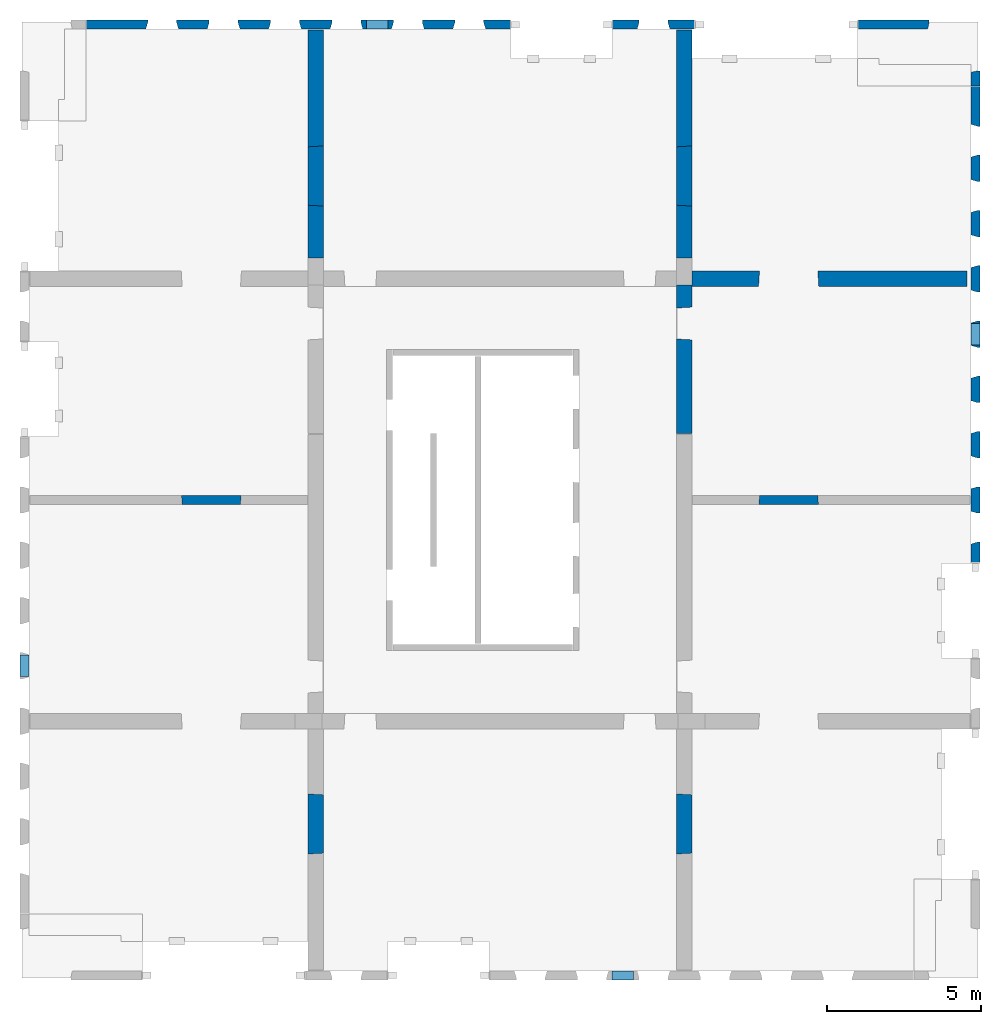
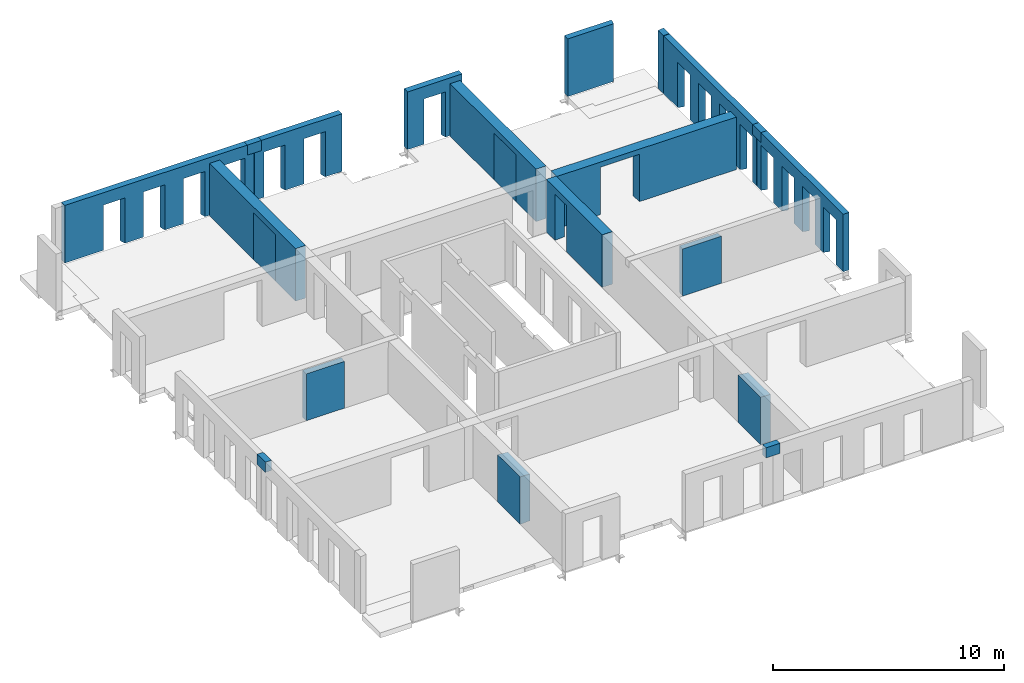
# One storey, part 4 of 4: 21 walls, 25 openings.
"""IFC2X3 building model written with IfcOpenShell, lengths in millimetres."""

from ifc_helpers import new_model, entity, si_unit, converted_unit, derived_unit, direction, frame, frame_2d, origin, origin_2d_with_axis, place, context, subcontext, project, spatial, rectangle, extrude, faceted_brep, material, layer, layer_set, layer_usage, type_object, element, save


model = new_model("IFC2X3")

# Units and contexts
model_context = context("Model", 3, precision=0.01, world=origin(), true_north=direction((6.12303176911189e-17, 1.0)))
body_context = subcontext(model_context, "Body", "Model", "MODEL_VIEW")
ifc_project = project(units=[si_unit("LENGTHUNIT", "METRE", prefix="MILLI"), si_unit("AREAUNIT", "SQUARE_METRE"), si_unit("VOLUMEUNIT", "CUBIC_METRE"), converted_unit("PLANEANGLEUNIT", "DEGREE", entity("IfcRatioMeasure", 0.0174532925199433), si_unit("PLANEANGLEUNIT", "RADIAN"), dimensions=[0, 0, 0, 0, 0, 0, 0]), si_unit("MASSUNIT", "GRAM", prefix="KILO"), derived_unit("MASSDENSITYUNIT", [(si_unit("MASSUNIT", "GRAM", prefix="KILO"), 1), (si_unit("LENGTHUNIT", "METRE"), -3)]), si_unit("TIMEUNIT", "SECOND"), si_unit("FREQUENCYUNIT", "HERTZ"), si_unit("THERMODYNAMICTEMPERATUREUNIT", "DEGREE_CELSIUS"), derived_unit("THERMALTRANSMITTANCEUNIT", [(si_unit("MASSUNIT", "GRAM", prefix="KILO"), 1), (si_unit("THERMODYNAMICTEMPERATUREUNIT", "KELVIN"), -1), (si_unit("TIMEUNIT", "SECOND"), -3)]), derived_unit("VOLUMETRICFLOWRATEUNIT", [(si_unit("LENGTHUNIT", "METRE"), 3), (si_unit("TIMEUNIT", "SECOND"), -1)]), si_unit("ELECTRICCURRENTUNIT", "AMPERE"), si_unit("ELECTRICVOLTAGEUNIT", "VOLT"), si_unit("POWERUNIT", "WATT"), si_unit("FORCEUNIT", "NEWTON", prefix="KILO"), si_unit("ILLUMINANCEUNIT", "LUX"), si_unit("LUMINOUSFLUXUNIT", "LUMEN"), si_unit("LUMINOUSINTENSITYUNIT", "CANDELA"), derived_unit("USERDEFINED", [(si_unit("MASSUNIT", "GRAM", prefix="KILO"), -1), (si_unit("LENGTHUNIT", "METRE"), -2), (si_unit("TIMEUNIT", "SECOND"), 3), (si_unit("LUMINOUSFLUXUNIT", "LUMEN"), 1)]), derived_unit("LINEARVELOCITYUNIT", [(si_unit("LENGTHUNIT", "METRE"), 1), (si_unit("TIMEUNIT", "SECOND"), -1)]), si_unit("PRESSUREUNIT", "PASCAL"), derived_unit("USERDEFINED", [(si_unit("LENGTHUNIT", "METRE"), -2), (si_unit("MASSUNIT", "GRAM", prefix="KILO"), 1), (si_unit("TIMEUNIT", "SECOND"), -2)])], contexts=[model_context])

# Site, building, storey
site_placement = place(None, origin())
site = spatial("IfcSite", under=ifc_project, at=site_placement, Name="Default", CompositionType="ELEMENT")
building_placement = place(site_placement, origin())
building = spatial("IfcBuilding", under=site, at=building_placement, Name="niet gebruiken", CompositionType="ELEMENT")
storey_placement = place(building_placement, frame((0.0, 0.0, 33300.0)))
storey = spatial("IfcBuildingStorey", under=building, at=storey_placement, Name="10 tiende verdieping", CompositionType="ELEMENT", Elevation=33300.0)

# Walls
ifc_material_1 = material(Name="NLRS_f2_beton ihwg")
ifc_layer_1 = layer(ifc_material_1, 300.0)
ifc_layer_set_1 = layer_set([ifc_layer_1], Name="Basic Wall:NLRS_21.21_WA_beton ihwg d=300_gen")
ifc_layer_usage_1 = layer_usage(ifc_layer_set_1, "AXIS2", "NEGATIVE", 150.0)
wall_type_1 = type_object("IfcWallType", Name="Basic Wall:NLRS_21.21_WA_beton ihwg d=300_gen", PredefinedType="STANDARD", material=ifc_layer_set_1)
wall_1_placement = place(storey_placement, frame((137395.0, 32980.0, 2455.0)))
element("IfcWallStandardCase", 1, at=wall_1_placement, inside=storey, type_object=wall_type_1, material=ifc_layer_usage_1, Name="Basic Wall:NLRS_21.21_WA_beton ihwg d=300_gen", ObjectType="Basic Wall:NLRS_21.21_WA_beton ihwg d=300_gen", context=body_context, shape_type="SweptSolid", body=[
    extrude(rectangle(XDim=710.000000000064, YDim=300.000000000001, at=frame_2d((355.000000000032, 0.0), x_axis=(-1.0, 0.0))), origin(), (0.0, 0.0, 1.0), 535.0),
])
ifc_layer_usage_2 = layer_usage(ifc_layer_set_1, "AXIS2", "NEGATIVE", 150.0)
wall_2_placement = place(storey_placement, frame((146105.0, 2020.0, 2455.0), z_axis=(0.0, 0.0, 1.0), x_axis=(-1.0, 0.0, 0.0)))
element("IfcWallStandardCase", 2, at=wall_2_placement, inside=storey, type_object=wall_type_1, material=ifc_layer_usage_2, Name="Basic Wall:NLRS_21.21_WA_beton ihwg d=300_gen", ObjectType="Basic Wall:NLRS_21.21_WA_beton ihwg d=300_gen", context=body_context, shape_type="SweptSolid", body=[
    extrude(rectangle(XDim=710.000000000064, YDim=300.0, at=frame_2d((355.000000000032, -1.4210854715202e-14), x_axis=(-1.0, 0.0))), origin(), (0.0, 0.0, 1.0), 535.0),
])
ifc_layer_usage_3 = layer_usage(ifc_layer_set_1, "AXIS2", "NEGATIVE", 150.0)
wall_3_placement = place(storey_placement, frame((126270.0, 11745.0, 2455.0), z_axis=(0.0, 0.0, 1.0), x_axis=(0.0, 1.0, 0.0)))
element("IfcWallStandardCase", 3, at=wall_3_placement, inside=storey, type_object=wall_type_1, material=ifc_layer_usage_3, Name="Basic Wall:NLRS_21.21_WA_beton ihwg d=300_gen", ObjectType="Basic Wall:NLRS_21.21_WA_beton ihwg d=300_gen", context=body_context, shape_type="SweptSolid", body=[
    extrude(rectangle(XDim=709.999999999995, YDim=300.000000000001, at=frame_2d((354.999999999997, 0.0), x_axis=(-1.0, 0.0))), origin(), (0.0, 0.0, 1.0), 535.0),
])
ifc_layer_usage_4 = layer_usage(ifc_layer_set_1, "AXIS2", "NEGATIVE", 150.0)
wall_4_placement = place(storey_placement, frame((157230.0, 23255.0, 2455.0), z_axis=(0.0, 0.0, 1.0), x_axis=(0.0, -1.0, 0.0)))
element("IfcWallStandardCase", 4, at=wall_4_placement, inside=storey, type_object=wall_type_1, material=ifc_layer_usage_4, Name="Basic Wall:NLRS_21.21_WA_beton ihwg d=300_gen", ObjectType="Basic Wall:NLRS_21.21_WA_beton ihwg d=300_gen", context=body_context, shape_type="SweptSolid", body=[
    extrude(rectangle(XDim=709.999999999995, YDim=300.000000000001, at=frame_2d((354.999999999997, 9.9475983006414e-13), x_axis=(-1.0, 0.0))), origin(), (0.0, 0.0, 1.0), 535.0),
])

# Wall, opening
ifc_material_2 = material(Name="NLRS_f2_beton prefab")
ifc_layer_2 = layer(ifc_material_2, 500.0)
ifc_layer_set_2 = layer_set([ifc_layer_2], Name="Basic Wall:NLRS_22.21_WA_beton prefab d=500_gen")
ifc_layer_usage_5 = layer_usage(ifc_layer_set_2, "AXIS2", "NEGATIVE", 250.0)
wall_type_2 = type_object("IfcWallType", Name="Basic Wall:NLRS_22.21_WA_beton prefab d=500_gen", PredefinedType="STANDARD", material=ifc_layer_set_2)
wall_5_placement = place(storey_placement, frame((147750.0, 25380.0, -70.0), z_axis=(0.0, 0.0, 1.0), x_axis=(0.0, 1.0, 0.0)))
wall_5 = element("IfcWallStandardCase", 5, at=wall_5_placement, inside=storey, type_object=wall_type_2, material=ifc_layer_usage_5, Name="Basic Wall:NLRS_22.21_WA_beton prefab d=500_gen", ObjectType="Basic Wall:NLRS_22.21_WA_beton prefab d=500_gen", context=body_context, shape_type="SweptSolid", body=[
    extrude(rectangle(XDim=7430.00000000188, YDim=499.99999999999, at=frame_2d((3715.00000000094, 7.14805992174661e-12), x_axis=(-1.0, 0.0))), origin(), (0.0, 0.0, 1.0), 2770.0),
])
opening_1_placement = place(wall_5_placement, frame((1690.0, 250.0, 0.0)))
element("IfcOpeningElement", 6, at=opening_1_placement, cuts=wall_5, Name="Basic Wall:NLRS_22.21_WA_beton prefab d=500_gen", ObjectType="Opening", context=body_context, shape_type="Brep", body=[
    faceted_brep([(1930.0, 0.0, 2470.0), (1930.0, 0.0, 0.0), (30.0, 0.0, 0.0), (30.0, 0.0, 2470.0), (1960.0, -500.0, 2500.0), (0.0, -500.0, 2500.0), (0.0, -500.0, 0.0), (1960.0, -500.0, 0.0)], [[[0, 1, 2, 3]], [[4, 5, 6, 7]], [[4, 0, 3, 5]], [[5, 3, 2, 6]], [[6, 2, 1, 7]], [[7, 1, 0, 4]]]),
])

ifc_layer_usage_6 = layer_usage(ifc_layer_set_2, "AXIS2", "NEGATIVE", 250.0)
wall_6_placement = place(storey_placement, frame((135750.0, 25380.0, -70.0), z_axis=(0.0, 0.0, 1.0), x_axis=(0.0, 1.0, 0.0)))
wall_6 = element("IfcWallStandardCase", 7, at=wall_6_placement, inside=storey, type_object=wall_type_2, material=ifc_layer_usage_6, Name="Basic Wall:NLRS_22.21_WA_beton prefab d=500_gen", ObjectType="Basic Wall:NLRS_22.21_WA_beton prefab d=500_gen", context=body_context, shape_type="SweptSolid", body=[
    extrude(rectangle(XDim=7429.99999999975, YDim=499.99999999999, at=frame_2d((3714.99999999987, -5.62749846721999e-12), x_axis=(-1.0, 0.0))), origin(), (0.0, 0.0, 1.0), 2770.0),
])
opening_2_placement = place(wall_6_placement, frame((1690.0, 250.0, 0.0)))
element("IfcOpeningElement", 8, at=opening_2_placement, cuts=wall_6, Name="Basic Wall:NLRS_22.21_WA_beton prefab d=500_gen", ObjectType="Opening", context=body_context, shape_type="Brep", body=[
    faceted_brep([(1930.0, 0.0, 2470.0), (1930.0, 0.0, 0.0), (30.0, 0.0, 0.0), (30.0, 0.0, 2470.0), (1960.0, -500.0, 2500.0), (0.0, -500.0, 2500.0), (0.0, -500.0, 0.0), (1960.0, -500.0, 0.0)], [[[0, 1, 2, 3]], [[4, 5, 6, 7]], [[4, 0, 3, 5]], [[5, 3, 2, 6]], [[6, 2, 1, 7]], [[7, 1, 0, 4]]]),
])

ifc_layer_usage_7 = layer_usage(ifc_layer_set_2, "AXIS2", "NEGATIVE", 250.0)
wall_7_placement = place(storey_placement, frame((147750.0, 24500.0, -70.0), z_axis=(0.0, 0.0, 1.0), x_axis=(0.0, -1.0, 0.0)))
wall_7 = element("IfcWallStandardCase", 9, at=wall_7_placement, inside=storey, type_object=wall_type_2, material=ifc_layer_usage_7, Name="Basic Wall:NLRS_22.21_WA_beton prefab d=500_gen", ObjectType="Basic Wall:NLRS_22.21_WA_beton prefab d=500_gen", context=body_context, shape_type="SweptSolid", body=[
    extrude(rectangle(XDim=4840.00000000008, YDim=499.99999999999, at=frame_2d((2420.00000000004, 0.0), x_axis=(-1.0, 0.0))), origin(), (0.0, 0.0, 1.0), 2770.0),
])
opening_3_placement = place(wall_7_placement, frame((1786.0, -250.0, 0.0)))
element("IfcOpeningElement", 10, at=opening_3_placement, cuts=wall_7, Name="Basic Wall:NLRS_22.21_WA_beton prefab d=500_gen", ObjectType="Opening", context=body_context, shape_type="Brep", body=[
    faceted_brep([(-1066.0, 500.0, 2478.0), (-1066.0, 500.0, 0.0), (-1036.0, 0.0, 0.0), (-1036.0, 0.0, 2448.0), (0.0, 500.0, 0.0), (-30.0, 0.0, 0.0), (-30.0, 0.0, 2448.0), (0.0, 500.0, 2478.0)], [[[0, 1, 2, 3]], [[1, 4, 5, 2]], [[6, 3, 2, 5]], [[7, 4, 1, 0]], [[7, 0, 3, 6]], [[4, 7, 6, 5]]]),
])

ifc_layer_usage_8 = layer_usage(ifc_layer_set_2, "AXIS2", "NEGATIVE", 250.0)
wall_8_placement = place(storey_placement, frame((156960.0, 24700.0, -70.0), z_axis=(0.0, 0.0, 1.0), x_axis=(-1.0, 0.0, 0.0)))
wall_8 = element("IfcWallStandardCase", 11, at=wall_8_placement, inside=storey, type_object=wall_type_2, material=ifc_layer_usage_8, Name="Basic Wall:NLRS_22.21_WA_beton prefab d=500_gen", ObjectType="Basic Wall:NLRS_22.21_WA_beton prefab d=500_gen", context=body_context, shape_type="SweptSolid", body=[
    extrude(rectangle(XDim=8960.00000000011, YDim=499.999999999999, at=frame_2d((4480.00000000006, 5.6843418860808e-13), x_axis=(-1.0, 0.0))), origin(), (0.0, 0.0, 1.0), 2770.0),
])
opening_4_placement = place(wall_8_placement, frame((6790.0, 250.0, 0.0)))
element("IfcOpeningElement", 12, at=opening_4_placement, cuts=wall_8, Name="Basic Wall:NLRS_22.21_WA_beton prefab d=500_gen", ObjectType="Opening", context=body_context, shape_type="Brep", body=[
    faceted_brep([(-30.0, -500.0, 2470.0), (-1930.0, -500.0, 2470.0), (-1930.0, -500.0, 0.0), (-30.0, -500.0, 0.0), (0.0, 0.0, 2500.0), (0.0, 0.0, 0.0), (-1960.0, 0.0, 0.0), (-1960.0, 0.0, 2500.0)], [[[0, 1, 2, 3]], [[4, 5, 6, 7]], [[4, 7, 1, 0]], [[7, 6, 2, 1]], [[6, 5, 3, 2]], [[5, 4, 0, 3]]]),
])

ifc_layer_3 = layer(ifc_material_2, 300.0)
ifc_layer_set_3 = layer_set([ifc_layer_3], Name="Basic Wall:NLRS_21.21_WA_beton prefab d=300/320_gen")
ifc_layer_usage_9 = layer_usage(ifc_layer_set_3, "AXIS2", "NEGATIVE", 150.0)
wall_type_3 = type_object("IfcWallType", Name="Basic Wall:NLRS_21.21_WA_beton prefab d=300/320_gen", PredefinedType="STANDARD", material=ifc_layer_set_3)
wall_9_placement = place(storey_placement, frame((145390.0, 32980.0, -50.0)))
wall_9 = element("IfcWallStandardCase", 13, at=wall_9_placement, inside=storey, type_object=wall_type_3, material=ifc_layer_usage_9, Name="Basic Wall:NLRS_21.21_WA_beton prefab d=300/320_gen", ObjectType="Basic Wall:NLRS_21.21_WA_beton prefab d=300/320_gen", context=body_context, shape_type="SweptSolid", body=[
    extrude(rectangle(XDim=2720.00000000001, YDim=300.000000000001, at=frame_2d((1360.0, -4.54747350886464e-13), x_axis=(-1.0, 0.0))), origin(), (0.0, 0.0, 1.0), 3040.0),
])
opening_5_placement = place(wall_9_placement, frame((825.0, -150.0, -20.0)))
element("IfcOpeningElement", 14, at=opening_5_placement, cuts=wall_9, Name="Basic Wall:NLRS_21.21_WA_beton prefab d=300/320_gen", ObjectType="Opening", context=body_context, shape_type="Brep", body=[
    faceted_brep([(0.0, 0.0, 2405.0), (0.0, 0.0, 0.0), (1070.0, 0.0, 0.0), (1070.0, 0.0, 2405.0), (1005.0, 219.0, 2370.0), (65.0, 219.0, 2370.0), (1005.0, 219.0, 0.0), (65.0, 219.0, 0.0), (65.0, 300.0, 0.0), (1005.0, 300.0, 0.0), (65.0, 300.0, 2370.0), (1005.0, 300.0, 2370.0)], [[[0, 1, 2, 3]], [[3, 4, 5, 0]], [[2, 6, 4, 3]], [[1, 7, 8, 9, 6, 2]], [[0, 5, 7, 1]], [[10, 11, 9, 8]], [[10, 5, 4, 11]], [[11, 4, 6, 9]], [[8, 7, 5, 10]]]),
])

# Wall, openings
ifc_layer_usage_10 = layer_usage(ifc_layer_set_3, "AXIS2", "NEGATIVE", 150.0)
wall_10_placement = place(storey_placement, frame((128290.0, 32980.0, -50.0)))
wall_10 = element("IfcWallStandardCase", 15, at=wall_10_placement, inside=storey, type_object=wall_type_3, material=ifc_layer_usage_10, Name="Basic Wall:NLRS_21.21_WA_beton prefab d=300/320_gen", ObjectType="Basic Wall:NLRS_21.21_WA_beton prefab d=300/320_gen", context=body_context, shape_type="SweptSolid", body=[
    extrude(rectangle(XDim=9449.99999999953, YDim=300.000000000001, at=frame_2d((4724.99999999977, 0.0), x_axis=(-1.0, 0.0))), origin(), (0.0, 0.0, 1.0), 3040.00000000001),
])
opening_6_placement = place(wall_10_placement, frame((3925.0, -150.0, -20.0)))
element("IfcOpeningElement", 16, at=opening_6_placement, cuts=wall_10, Name="Basic Wall:NLRS_21.21_WA_beton prefab d=300/320_gen", ObjectType="Opening", context=body_context, shape_type="Brep", body=[
    faceted_brep([(1070.0, 0.0, 2405.0), (0.0, 0.0, 2405.0), (0.0, 0.0, 0.0), (1070.0, 0.0, 0.0), (1005.0, 219.0, 2370.0), (65.0, 219.0, 2370.0), (65.0, 219.0, 0.0), (65.0, 300.0, 0.0), (1005.0, 300.0, 0.0), (1005.0, 219.0, 0.0), (1005.0, 300.0, 2370.0), (65.0, 300.0, 2370.0)], [[[0, 1, 2, 3]], [[1, 0, 4, 5]], [[2, 1, 5, 6]], [[3, 2, 6, 7, 8, 9]], [[0, 3, 9, 4]], [[10, 8, 7, 11]], [[10, 11, 5, 4]], [[11, 7, 6, 5]], [[8, 10, 4, 9]]]),
])
opening_7_placement = place(wall_10_placement, frame((1925.0, -150.0, -20.0)))
element("IfcOpeningElement", 17, at=opening_7_placement, cuts=wall_10, Name="Basic Wall:NLRS_21.21_WA_beton prefab d=300/320_gen", ObjectType="Opening", context=body_context, shape_type="Brep", body=[
    faceted_brep([(1070.0, 0.0, 2405.0), (0.0, 0.0, 2405.0), (0.0, 0.0, 0.0), (1070.0, 0.0, 0.0), (1005.0, 219.0, 2370.0), (65.0, 219.0, 2370.0), (65.0, 219.0, 0.0), (65.0, 300.0, 0.0), (1005.0, 300.0, 0.0), (1005.0, 219.0, 0.0), (1005.0, 300.0, 2370.0), (65.0, 300.0, 2370.0)], [[[0, 1, 2, 3]], [[1, 0, 4, 5]], [[2, 1, 5, 6]], [[3, 2, 6, 7, 8, 9]], [[0, 3, 9, 4]], [[10, 8, 7, 11]], [[10, 11, 5, 4]], [[11, 7, 6, 5]], [[8, 10, 4, 9]]]),
])
opening_8_placement = place(wall_10_placement, frame((5925.0, -150.0, -20.0)))
element("IfcOpeningElement", 18, at=opening_8_placement, cuts=wall_10, Name="Basic Wall:NLRS_21.21_WA_beton prefab d=300/320_gen", ObjectType="Opening", context=body_context, shape_type="Brep", body=[
    faceted_brep([(0.0, 0.0, 2405.0), (0.0, 0.0, 0.0), (1070.0, 0.0, 0.0), (1070.0, 0.0, 2405.0), (1005.0, 219.0, 2370.0), (65.0, 219.0, 2370.0), (1005.0, 219.0, 0.0), (65.0, 219.0, 0.0), (65.0, 300.0, 0.0), (1005.0, 300.0, 0.0), (65.0, 300.0, 2370.0), (1005.0, 300.0, 2370.0)], [[[0, 1, 2, 3]], [[3, 4, 5, 0]], [[2, 6, 4, 3]], [[1, 7, 8, 9, 6, 2]], [[0, 5, 7, 1]], [[10, 11, 9, 8]], [[10, 5, 4, 11]], [[11, 4, 6, 9]], [[8, 7, 5, 10]]]),
])
opening_9_placement = place(wall_10_placement, frame((7925.0, -150.0, -20.0)))
element("IfcOpeningElement", 19, at=opening_9_placement, cuts=wall_10, Name="Basic Wall:NLRS_21.21_WA_beton prefab d=300/320_gen", ObjectType="Opening", context=body_context, shape_type="Brep", body=[
    faceted_brep([(0.0, 0.0, 2405.0), (0.0, 0.0, 0.0), (1070.0, 0.0, 0.0), (1070.0, 0.0, 2405.0), (1005.0, 219.0, 2370.0), (65.0, 219.0, 2370.0), (1005.0, 219.0, 0.0), (65.0, 219.0, 0.0), (65.0, 300.0, 0.0), (1005.0, 300.0, 0.0), (65.0, 300.0, 2370.0), (1005.0, 300.0, 2370.0)], [[[0, 1, 2, 3]], [[3, 4, 5, 0]], [[2, 6, 4, 3]], [[1, 7, 8, 9, 6, 2]], [[0, 5, 7, 1]], [[10, 11, 9, 8]], [[10, 5, 4, 11]], [[11, 4, 6, 9]], [[8, 7, 5, 10]]]),
])
opening_10_placement = place(wall_10_placement, origin())
element("IfcOpeningElement", 20, at=opening_10_placement, cuts=wall_10, Name="Basic Wall:NLRS_21.21_WA_beton prefab d=300/320_gen", ObjectType="Opening", context=body_context, shape_type="SweptSolid", body=[
    extrude(rectangle(XDim=535.0, YDim=345.000000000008, at=origin_2d_with_axis()), frame((9277.49999999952, 150.0, 2772.50000000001), z_axis=(0.0, -1.0, 0.0), x_axis=(0.0, 0.0, 1.0)), (0.0, 0.0, 1.0), 300.0),
])

# Wall, opening
ifc_layer_usage_11 = layer_usage(ifc_layer_set_3, "AXIS2", "NEGATIVE", 150.0)
wall_11_placement = place(storey_placement, frame((153390.0, 32980.0, -50.0)))
wall_11 = element("IfcWallStandardCase", 21, at=wall_11_placement, inside=storey, type_object=wall_type_3, material=ifc_layer_usage_11, Name="Basic Wall:NLRS_21.21_WA_beton prefab d=300/320_gen", ObjectType="Basic Wall:NLRS_21.21_WA_beton prefab d=300/320_gen", context=body_context, shape_type="SweptSolid", body=[
    extrude(rectangle(XDim=2330.00000000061, YDim=300.000000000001, at=frame_2d((1165.00000000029, -1.29318777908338e-12), x_axis=(-1.0, 0.0))), origin(), (0.0, 0.0, 1.0), 3040.0),
])
opening_11_placement = place(wall_11_placement, frame((2265.0, -250.0, 0.0)))
element("IfcOpeningElement", 22, at=opening_11_placement, cuts=wall_11, Name="Basic Wall:NLRS_21.21_WA_beton prefab d=300/320_gen", ObjectType="Opening", context=body_context, shape_type="Brep", body=[
    faceted_brep([(65.0, 0.0, 3040.0), (65.0, 319.0, 3040.0), (0.0, 0.0, 3040.0), (65.0, 0.0, 0.0), (0.0, 0.0, 0.0), (65.0, 319.0, 0.0)], [[[0, 1, 2]], [[3, 4, 5]], [[2, 4, 3, 0]], [[0, 3, 5, 1]], [[1, 5, 4, 2]]]),
])

ifc_layer_usage_12 = layer_usage(ifc_layer_set_3, "AXIS2", "NEGATIVE", 150.0)
wall_12_placement = place(storey_placement, frame((157230.0, 31470.0, -50.0), z_axis=(0.0, 0.0, 1.0), x_axis=(0.0, -1.0, 0.0)))
wall_12 = element("IfcWallStandardCase", 23, at=wall_12_placement, inside=storey, type_object=wall_type_3, material=ifc_layer_usage_12, Name="Basic Wall:NLRS_21.21_WA_beton prefab d=300/320_gen", ObjectType="Basic Wall:NLRS_21.21_WA_beton prefab d=300/320_gen", context=body_context, shape_type="SweptSolid", body=[
    extrude(rectangle(XDim=489.999999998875, YDim=300.000000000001, at=frame_2d((244.999999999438, -7.8159700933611e-13), x_axis=(-1.0, 0.0))), origin(), (0.0, 0.0, 1.0), 3040.0),
])
opening_12_placement = place(wall_12_placement, frame((65.0, -250.0, 0.0)))
element("IfcOpeningElement", 24, at=opening_12_placement, cuts=wall_12, Name="Basic Wall:NLRS_21.21_WA_beton prefab d=300/320_gen", ObjectType="Opening", context=body_context, shape_type="Brep", body=[
    faceted_brep([(-65.0, 0.0, 3040.0), (0.0, 0.0, 3040.0), (-65.0, 319.0, 3040.0), (-65.0, 0.0, 0.0), (-65.0, 319.0, 0.0), (0.0, 0.0, 0.0)], [[[0, 1, 2]], [[3, 4, 5]], [[1, 0, 3, 5]], [[0, 2, 4, 3]], [[2, 1, 5, 4]]]),
])

# Wall, openings
ifc_layer_usage_13 = layer_usage(ifc_layer_set_3, "AXIS2", "NEGATIVE", 150.0)
wall_13_placement = place(storey_placement, frame((137760.0, 32980.0, -50.0)))
wall_13 = element("IfcWallStandardCase", 25, at=wall_13_placement, inside=storey, type_object=wall_type_3, material=ifc_layer_usage_13, Name="Basic Wall:NLRS_21.21_WA_beton prefab d=300/320_gen", ObjectType="Basic Wall:NLRS_21.21_WA_beton prefab d=300/320_gen", context=body_context, shape_type="SweptSolid", body=[
    extrude(rectangle(XDim=4350.00000000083, YDim=300.000000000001, at=frame_2d((2175.00000000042, 0.0), x_axis=(-1.0, 0.0))), origin(), (0.0, 0.0, 1.0), 3040.0),
])
opening_13_placement = place(wall_13_placement, frame((455.0, -150.0, -20.0)))
element("IfcOpeningElement", 26, at=opening_13_placement, cuts=wall_13, Name="Basic Wall:NLRS_21.21_WA_beton prefab d=300/320_gen", ObjectType="Opening", context=body_context, shape_type="Brep", body=[
    faceted_brep([(1070.0, 0.0, 2405.0), (0.0, 0.0, 2405.0), (0.0, 0.0, 0.0), (1070.0, 0.0, 0.0), (1005.0, 219.0, 2370.0), (65.0, 219.0, 2370.0), (65.0, 219.0, 0.0), (65.0, 300.0, 0.0), (1005.0, 300.0, 0.0), (1005.0, 219.0, 0.0), (1005.0, 300.0, 2370.0), (65.0, 300.0, 2370.0)], [[[0, 1, 2, 3]], [[1, 0, 4, 5]], [[2, 1, 5, 6]], [[3, 2, 6, 7, 8, 9]], [[0, 3, 9, 4]], [[10, 8, 7, 11]], [[10, 11, 5, 4]], [[11, 7, 6, 5]], [[8, 10, 4, 9]]]),
])
opening_14_placement = place(wall_13_placement, frame((2455.0, -150.0, -20.0)))
element("IfcOpeningElement", 27, at=opening_14_placement, cuts=wall_13, Name="Basic Wall:NLRS_21.21_WA_beton prefab d=300/320_gen", ObjectType="Opening", context=body_context, shape_type="Brep", body=[
    faceted_brep([(1070.0, 0.0, 2405.0), (0.0, 0.0, 2405.0), (0.0, 0.0, 0.0), (1070.0, 0.0, 0.0), (1005.0, 219.0, 2370.0), (65.0, 219.0, 2370.0), (65.0, 219.0, 0.0), (65.0, 300.0, 0.0), (1005.0, 300.0, 0.0), (1005.0, 219.0, 0.0), (1005.0, 300.0, 2370.0), (65.0, 300.0, 2370.0)], [[[0, 1, 2, 3]], [[1, 0, 4, 5]], [[2, 1, 5, 6]], [[3, 2, 6, 7, 8, 9]], [[0, 3, 9, 4]], [[10, 8, 7, 11]], [[10, 11, 5, 4]], [[11, 7, 6, 5]], [[8, 10, 4, 9]]]),
])
opening_15_placement = place(wall_13_placement, origin())
element("IfcOpeningElement", 28, at=opening_15_placement, cuts=wall_13, Name="Basic Wall:NLRS_21.21_WA_beton prefab d=300/320_gen", ObjectType="Opening", context=body_context, shape_type="SweptSolid", body=[
    extrude(rectangle(XDim=534.999999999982, YDim=345.000000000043, at=frame_2d((0.0, 0.0), x_axis=(0.0, 1.0))), frame((172.500000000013, 150.0, 2772.50000000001), z_axis=(0.0, -1.0, 0.0), x_axis=(-1.0, 0.0, 0.0)), (0.0, 0.0, 1.0), 300.0),
])

ifc_layer_usage_14 = layer_usage(ifc_layer_set_3, "AXIS2", "NEGATIVE", 150.0)
wall_14_placement = place(storey_placement, frame((157230.0, 30960.0, -50.0), z_axis=(0.0, 0.0, 1.0), x_axis=(0.0, -1.0, 0.0)))
wall_14 = element("IfcWallStandardCase", 29, at=wall_14_placement, inside=storey, type_object=wall_type_3, material=ifc_layer_usage_14, Name="Basic Wall:NLRS_21.21_WA_beton prefab d=300/320_gen", ObjectType="Basic Wall:NLRS_21.21_WA_beton prefab d=300/320_gen", context=body_context, shape_type="SweptSolid", body=[
    extrude(rectangle(XDim=8049.99999999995, YDim=300.000000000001, at=frame_2d((4024.99999999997, 7.105427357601e-14), x_axis=(-1.0, 0.0))), origin(), (0.0, 0.0, 1.0), 3039.99999999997),
])
opening_16_placement = place(wall_14_placement, frame((2295.0, -150.0, -20.0)))
element("IfcOpeningElement", 30, at=opening_16_placement, cuts=wall_14, Name="Basic Wall:NLRS_21.21_WA_beton prefab d=300/320_gen", ObjectType="Opening", context=body_context, shape_type="Brep", body=[
    faceted_brep([(-1070.0, 0.0, 2405.0), (-1070.0, 0.0, 0.0), (0.0, 0.0, 0.0), (0.0, 0.0, 2405.0), (-65.0, 219.0, 2370.0), (-1005.0, 219.0, 2370.0), (-65.0, 219.0, 0.0), (-1005.0, 219.0, 0.0), (-1005.0, 300.0, 0.0), (-65.0, 300.0, 0.0), (-1005.0, 300.0, 2370.0), (-65.0, 300.0, 2370.0)], [[[0, 1, 2, 3]], [[3, 4, 5, 0]], [[2, 6, 4, 3]], [[1, 7, 8, 9, 6, 2]], [[0, 5, 7, 1]], [[10, 11, 9, 8]], [[10, 5, 4, 11]], [[11, 4, 6, 9]], [[8, 7, 5, 10]]]),
])
opening_17_placement = place(wall_14_placement, frame((4095.0, -150.0, -20.0)))
element("IfcOpeningElement", 31, at=opening_17_placement, cuts=wall_14, Name="Basic Wall:NLRS_21.21_WA_beton prefab d=300/320_gen", ObjectType="Opening", context=body_context, shape_type="Brep", body=[
    faceted_brep([(-1070.0, 0.0, 2405.0), (-1070.0, 0.0, 0.0), (0.0, 0.0, 0.0), (0.0, 0.0, 2405.0), (-65.0, 219.0, 2370.0), (-1005.0, 219.0, 2370.0), (-65.0, 219.0, 0.0), (-1005.0, 219.0, 0.0), (-1005.0, 300.0, 0.0), (-65.0, 300.0, 0.0), (-1005.0, 300.0, 2370.0), (-65.0, 300.0, 2370.0)], [[[0, 1, 2, 3]], [[3, 4, 5, 0]], [[2, 6, 4, 3]], [[1, 7, 8, 9, 6, 2]], [[0, 5, 7, 1]], [[10, 11, 9, 8]], [[10, 5, 4, 11]], [[11, 4, 6, 9]], [[8, 7, 5, 10]]]),
])
opening_18_placement = place(wall_14_placement, frame((5895.0, -150.0, -20.0)))
element("IfcOpeningElement", 32, at=opening_18_placement, cuts=wall_14, Name="Basic Wall:NLRS_21.21_WA_beton prefab d=300/320_gen", ObjectType="Opening", context=body_context, shape_type="Brep", body=[
    faceted_brep([(-1070.0, 0.0, 2405.0), (-1070.0, 0.0, 0.0), (0.0, 0.0, 0.0), (0.0, 0.0, 2405.0), (-65.0, 219.0, 2370.0), (-1005.0, 219.0, 2370.0), (-65.0, 219.0, 0.0), (-1005.0, 219.0, 0.0), (-1005.0, 300.0, 0.0), (-65.0, 300.0, 0.0), (-1005.0, 300.0, 2370.0), (-65.0, 300.0, 2370.0)], [[[0, 1, 2, 3]], [[3, 4, 5, 0]], [[2, 6, 4, 3]], [[1, 7, 8, 9, 6, 2]], [[0, 5, 7, 1]], [[10, 11, 9, 8]], [[10, 5, 4, 11]], [[11, 4, 6, 9]], [[8, 7, 5, 10]]]),
])
opening_19_placement = place(wall_14_placement, frame((7695.0, -150.0, -20.0)))
element("IfcOpeningElement", 33, at=opening_19_placement, cuts=wall_14, Name="Basic Wall:NLRS_21.21_WA_beton prefab d=300/320_gen", ObjectType="Opening", context=body_context, shape_type="Brep", body=[
    faceted_brep([(-1070.0, 0.0, 2405.0), (-1070.0, 0.0, 0.0), (0.0, 0.0, 0.0), (0.0, 0.0, 2405.0), (-65.0, 219.0, 2370.0), (-1005.0, 219.0, 2370.0), (-65.0, 219.0, 0.0), (-1005.0, 219.0, 0.0), (-1005.0, 300.0, 0.0), (-65.0, 300.0, 0.0), (-1005.0, 300.0, 2370.0), (-65.0, 300.0, 2370.0)], [[[0, 1, 2, 3]], [[3, 4, 5, 0]], [[2, 6, 4, 3]], [[1, 7, 8, 9, 6, 2]], [[0, 5, 7, 1]], [[10, 11, 9, 8]], [[10, 5, 4, 11]], [[11, 4, 6, 9]], [[8, 7, 5, 10]]]),
])
opening_20_placement = place(wall_14_placement, origin())
element("IfcOpeningElement", 34, at=opening_20_placement, cuts=wall_14, Name="Basic Wall:NLRS_21.21_WA_beton prefab d=300/320_gen", ObjectType="Opening", context=body_context, shape_type="SweptSolid", body=[
    extrude(rectangle(XDim=534.999999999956, YDim=345.0, at=origin_2d_with_axis()), frame((7877.49999999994, 150.0, 2772.49999999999), z_axis=(0.0, -1.0, 0.0), x_axis=(0.0, 0.0, 1.0)), (0.0, 0.0, 1.0), 300.0),
])

ifc_layer_usage_15 = layer_usage(ifc_layer_set_3, "AXIS2", "NEGATIVE", 150.0)
wall_15_placement = place(storey_placement, frame((157230.0, 22890.0, -50.0), z_axis=(0.0, 0.0, 1.0), x_axis=(0.0, -1.0, 0.0)))
wall_15 = element("IfcWallStandardCase", 35, at=wall_15_placement, inside=storey, type_object=wall_type_3, material=ifc_layer_usage_15, Name="Basic Wall:NLRS_21.21_WA_beton prefab d=300/320_gen", ObjectType="Basic Wall:NLRS_21.21_WA_beton prefab d=300/320_gen", context=body_context, shape_type="SweptSolid", body=[
    extrude(rectangle(XDim=7450.00000000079, YDim=300.000000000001, at=frame_2d((3725.00000000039, -3.99325017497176e-12), x_axis=(-1.0, 0.0))), origin(), (0.0, 0.0, 1.0), 3040.00000000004),
])
opening_21_placement = place(wall_15_placement, frame((6825.0, -150.0, -20.0)))
element("IfcOpeningElement", 36, at=opening_21_placement, cuts=wall_15, Name="Basic Wall:NLRS_21.21_WA_beton prefab d=300/320_gen", ObjectType="Opening", context=body_context, shape_type="Brep", body=[
    faceted_brep([(-1070.0, 0.0, 2405.0), (-1070.0, 0.0, 0.0), (0.0, 0.0, 0.0), (0.0, 0.0, 2405.0), (-65.0, 219.0, 2370.0), (-1005.0, 219.0, 2370.0), (-65.0, 219.0, 0.0), (-1005.0, 219.0, 0.0), (-1005.0, 300.0, 0.0), (-65.0, 300.0, 0.0), (-1005.0, 300.0, 2370.0), (-65.0, 300.0, 2370.0)], [[[0, 1, 2, 3]], [[3, 4, 5, 0]], [[2, 6, 4, 3]], [[1, 7, 8, 9, 6, 2]], [[0, 5, 7, 1]], [[10, 11, 9, 8]], [[10, 5, 4, 11]], [[11, 4, 6, 9]], [[8, 7, 5, 10]]]),
])
opening_22_placement = place(wall_15_placement, frame((3225.0, -150.0, -20.0)))
element("IfcOpeningElement", 37, at=opening_22_placement, cuts=wall_15, Name="Basic Wall:NLRS_21.21_WA_beton prefab d=300/320_gen", ObjectType="Opening", context=body_context, shape_type="Brep", body=[
    faceted_brep([(-1070.0, 0.0, 2405.0), (-1070.0, 0.0, 0.0), (0.0, 0.0, 0.0), (0.0, 0.0, 2405.0), (-65.0, 219.0, 2370.0), (-1005.0, 219.0, 2370.0), (-65.0, 219.0, 0.0), (-1005.0, 219.0, 0.0), (-1005.0, 300.0, 0.0), (-65.0, 300.0, 0.0), (-1005.0, 300.0, 2370.0), (-65.0, 300.0, 2370.0)], [[[0, 1, 2, 3]], [[3, 4, 5, 0]], [[2, 6, 4, 3]], [[1, 7, 8, 9, 6, 2]], [[0, 5, 7, 1]], [[10, 11, 9, 8]], [[10, 5, 4, 11]], [[11, 4, 6, 9]], [[8, 7, 5, 10]]]),
])
opening_23_placement = place(wall_15_placement, frame((1425.0, -150.0, -20.0)))
element("IfcOpeningElement", 38, at=opening_23_placement, cuts=wall_15, Name="Basic Wall:NLRS_21.21_WA_beton prefab d=300/320_gen", ObjectType="Opening", context=body_context, shape_type="Brep", body=[
    faceted_brep([(-1070.0, 0.0, 2405.0), (-1070.0, 0.0, 0.0), (0.0, 0.0, 0.0), (0.0, 0.0, 2405.0), (-65.0, 219.0, 2370.0), (-1005.0, 219.0, 2370.0), (-65.0, 219.0, 0.0), (-1005.0, 219.0, 0.0), (-1005.0, 300.0, 0.0), (-65.0, 300.0, 0.0), (-1005.0, 300.0, 2370.0), (-65.0, 300.0, 2370.0)], [[[0, 1, 2, 3]], [[3, 4, 5, 0]], [[2, 6, 4, 3]], [[1, 7, 8, 9, 6, 2]], [[0, 5, 7, 1]], [[10, 11, 9, 8]], [[10, 5, 4, 11]], [[11, 4, 6, 9]], [[8, 7, 5, 10]]]),
])
opening_24_placement = place(wall_15_placement, frame((5025.0, -150.0, -20.0)))
element("IfcOpeningElement", 39, at=opening_24_placement, cuts=wall_15, Name="Basic Wall:NLRS_21.21_WA_beton prefab d=300/320_gen", ObjectType="Opening", context=body_context, shape_type="Brep", body=[
    faceted_brep([(-1070.0, 0.0, 2405.0), (-1070.0, 0.0, 0.0), (0.0, 0.0, 0.0), (0.0, 0.0, 2405.0), (-65.0, 219.0, 2370.0), (-1005.0, 219.0, 2370.0), (-65.0, 219.0, 0.0), (-1005.0, 219.0, 0.0), (-1005.0, 300.0, 0.0), (-65.0, 300.0, 0.0), (-1005.0, 300.0, 2370.0), (-65.0, 300.0, 2370.0)], [[[0, 1, 2, 3]], [[3, 4, 5, 0]], [[2, 6, 4, 3]], [[1, 7, 8, 9, 6, 2]], [[0, 5, 7, 1]], [[10, 11, 9, 8]], [[10, 5, 4, 11]], [[11, 4, 6, 9]], [[8, 7, 5, 10]]]),
])
opening_25_placement = place(wall_15_placement, origin())
element("IfcOpeningElement", 40, at=opening_25_placement, cuts=wall_15, Name="Basic Wall:NLRS_21.21_WA_beton prefab d=300/320_gen", ObjectType="Opening", context=body_context, shape_type="SweptSolid", body=[
    extrude(rectangle(XDim=535.000000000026, YDim=344.999999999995, at=frame_2d((-2.17426077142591e-12, 0.0), x_axis=(0.0, 1.0))), frame((172.499999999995, 150.0, 2772.50000000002), z_axis=(0.0, -1.0, 0.0), x_axis=(-1.0, 0.0, 0.0)), (0.0, 0.0, 1.0), 300.0),
])

# Walls
ifc_material_3 = material(Name="NLRS_f2_beton prefab dichtstorten")
wall_type_4 = type_object("IfcWallType", Name="Parametric Wall:NLRS_22.21_WA_beton prefab d=500 1900x2470_gen", PredefinedType="NOTDEFINED", material=ifc_material_3)
wall_16_placement = place(storey_placement, frame((135500.0, 5970.0, -70.0), z_axis=(0.0, 0.0, 1.0), x_axis=(0.0, 1.0, 0.0)))
element("IfcWall", 41, at=wall_16_placement, inside=storey, type_object=wall_type_4, material=ifc_material_3, Name="Parametric Wall:NLRS_22.21_WA_beton prefab d=500 1900x2470_gen", ObjectType="Parametric Wall:NLRS_22.21_WA_beton prefab d=500 1900x2470_gen", context=body_context, shape_type="Brep", body=[
    faceted_brep([(1960.0, 0.0, 2500.0), (1960.0, 0.0, 0.0), (0.0, 0.0, 0.0), (0.0, 0.0, 2500.0), (1930.0, -500.0, 2470.0), (30.0, -500.0, 2470.0), (30.0, -500.0, 0.0), (1930.0, -500.0, 0.0)], [[[0, 1, 2, 3]], [[4, 5, 6, 7]], [[4, 7, 1, 0]], [[7, 6, 2, 1]], [[6, 5, 3, 2]], [[5, 4, 0, 3]]]),
])
for number, where, z_axis, x_axis in (
    (42, (147500.0, 27070.0, -70.0), (0.0, 0.0, 1.0), (0.0, 1.0, 0.0)),
    (43, (135500.0, 27070.0, -70.0), (0.0, 0.0, 1.0), (0.0, 1.0, 0.0)),
):
    element("IfcWall", number, at=place(storey_placement, frame(where, z_axis=z_axis, x_axis=x_axis)), inside=storey, type_object=wall_type_4, material=ifc_material_3, Name="Parametric Wall:NLRS_22.21_WA_beton prefab d=500 1900x2470_gen", ObjectType="Parametric Wall:NLRS_22.21_WA_beton prefab d=500 1900x2470_gen", context=body_context, shape_type="Brep", body=[
        faceted_brep([(0.0, -500.0, 2500.0), (0.0, -500.0, 0.0), (1960.0, -500.0, 0.0), (1960.0, -500.0, 2500.0), (30.0, 0.0, 2470.0), (1930.0, 0.0, 2470.0), (1930.0, 0.0, 0.0), (30.0, 0.0, 0.0)], [[[0, 1, 2, 3]], [[4, 5, 6, 7]], [[4, 7, 1, 0]], [[7, 6, 2, 1]], [[6, 5, 3, 2]], [[5, 4, 0, 3]]]),
    ])
wall_17_placement = place(storey_placement, frame((147500.0, 5970.0, -70.0), z_axis=(0.0, 0.0, 1.0), x_axis=(0.0, 1.0, 0.0)))
element("IfcWall", 44, at=wall_17_placement, inside=storey, type_object=wall_type_4, material=ifc_material_3, Name="Parametric Wall:NLRS_22.21_WA_beton prefab d=500 1900x2470_gen", ObjectType="Parametric Wall:NLRS_22.21_WA_beton prefab d=500 1900x2470_gen", context=body_context, shape_type="Brep", body=[
    faceted_brep([(1960.0, 0.0, 2500.0), (1960.0, 0.0, 0.0), (0.0, 0.0, 0.0), (0.0, 0.0, 2500.0), (1930.0, -500.0, 2470.0), (30.0, -500.0, 2470.0), (30.0, -500.0, 0.0), (1930.0, -500.0, 0.0)], [[[0, 1, 2, 3]], [[4, 5, 6, 7]], [[4, 7, 1, 0]], [[7, 6, 2, 1]], [[6, 5, 3, 2]], [[5, 4, 0, 3]]]),
])
wall_18_placement = place(storey_placement, frame((131382.0, 17350.0, -70.0)))
element("IfcWall", 45, at=wall_18_placement, inside=storey, type_object=wall_type_4, material=ifc_material_3, Name="Parametric Wall:NLRS_22.21_WA_beton prefab d=500 1900x2470_gen", ObjectType="Parametric Wall:NLRS_22.21_WA_beton prefab d=500 1900x2470_gen", context=body_context, shape_type="Brep", body=[
    faceted_brep([(1936.0, 300.0, 2488.0), (1936.0, 300.0, 0.0), (0.0, 300.0, 0.0), (0.0, 300.0, 2488.0), (1918.0, 0.0, 2470.0), (18.0, 0.0, 2470.0), (18.0, 0.0, 0.0), (1918.0, 0.0, 0.0)], [[[0, 1, 2, 3]], [[4, 5, 6, 7]], [[4, 7, 1, 0]], [[7, 6, 2, 1]], [[6, 5, 3, 2]], [[5, 4, 0, 3]]]),
])
wall_19_placement = place(storey_placement, frame((150182.0, 17350.0, -70.0)))
element("IfcWall", 46, at=wall_19_placement, inside=storey, type_object=wall_type_4, material=ifc_material_3, Name="Parametric Wall:NLRS_22.21_WA_beton prefab d=500 1900x2470_gen", ObjectType="Parametric Wall:NLRS_22.21_WA_beton prefab d=500 1900x2470_gen", context=body_context, shape_type="Brep", body=[
    faceted_brep([(0.0, 0.0, 2488.0), (0.0, 0.0, 0.0), (1936.0, 0.0, 0.0), (1936.0, 0.0, 2488.0), (18.0, 300.0, 2470.0), (1918.0, 300.0, 2470.0), (1918.0, 300.0, 0.0), (18.0, 300.0, 0.0)], [[[0, 1, 2, 3]], [[4, 5, 6, 7]], [[4, 7, 1, 0]], [[7, 6, 2, 1]], [[6, 5, 3, 2]], [[5, 4, 0, 3]]]),
])

save(model, "model.ifc")
